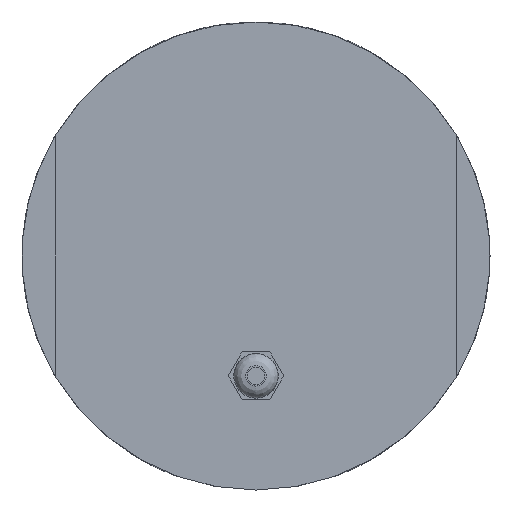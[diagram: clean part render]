
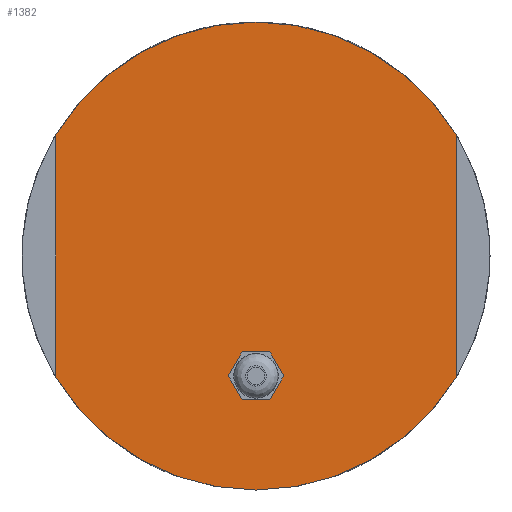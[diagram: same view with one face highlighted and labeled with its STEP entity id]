
A CAD part, left-side view. The second image highlights one B-rep face of the part: STEP entity #1382.
In plain terms, the highlighted planar face has unit normal (-1, 0, 0).
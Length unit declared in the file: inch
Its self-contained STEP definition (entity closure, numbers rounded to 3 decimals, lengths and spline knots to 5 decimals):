
#51=FACE_BOUND('',#265,.T.);
#101=PLANE('',#1530);
#177=FACE_OUTER_BOUND('',#264,.T.);
#264=EDGE_LOOP('',(#1239,#1240,#1241,#1242,#1243));
#265=EDGE_LOOP('',(#1244,#1245));
#376=LINE('',#2503,#496);
#382=LINE('',#2518,#502);
#496=VECTOR('',#1890,0.3937);
#502=VECTOR('',#1906,0.3937);
#521=CIRCLE('',#1438,0.19685);
#522=CIRCLE('',#1439,0.19685);
#558=CIRCLE('',#1515,2.69);
#560=CIRCLE('',#1517,2.69);
#562=CIRCLE('',#1519,2.69);
#604=VERTEX_POINT('',#2076);
#605=VERTEX_POINT('',#2077);
#680=VERTEX_POINT('',#2481);
#681=VERTEX_POINT('',#2483);
#684=VERTEX_POINT('',#2489);
#685=VERTEX_POINT('',#2491);
#688=VERTEX_POINT('',#2497);
#751=EDGE_CURVE('',#604,#605,#521,.T.);
#752=EDGE_CURVE('',#605,#604,#522,.T.);
#865=EDGE_CURVE('',#681,#680,#558,.T.);
#869=EDGE_CURVE('',#685,#684,#560,.T.);
#873=EDGE_CURVE('',#680,#688,#562,.T.);
#875=EDGE_CURVE('',#684,#681,#376,.T.);
#882=EDGE_CURVE('',#688,#685,#382,.T.);
#1239=ORIENTED_EDGE('',*,*,#875,.T.);
#1240=ORIENTED_EDGE('',*,*,#865,.T.);
#1241=ORIENTED_EDGE('',*,*,#873,.T.);
#1242=ORIENTED_EDGE('',*,*,#882,.T.);
#1243=ORIENTED_EDGE('',*,*,#869,.T.);
#1244=ORIENTED_EDGE('',*,*,#751,.T.);
#1245=ORIENTED_EDGE('',*,*,#752,.T.);
#1382=ADVANCED_FACE('',(#177,#51),#101,.F.);
#1438=AXIS2_PLACEMENT_3D('',#2078,#1656,#1657);
#1439=AXIS2_PLACEMENT_3D('',#2079,#1658,#1659);
#1515=AXIS2_PLACEMENT_3D('',#2484,#1871,#1872);
#1517=AXIS2_PLACEMENT_3D('',#2492,#1877,#1878);
#1519=AXIS2_PLACEMENT_3D('',#2499,#1883,#1884);
#1530=AXIS2_PLACEMENT_3D('',#2530,#1917,#1918);
#1656=DIRECTION('center_axis',(1.,0.,0.));
#1657=DIRECTION('ref_axis',(0.,-1.,0.));
#1658=DIRECTION('center_axis',(1.,0.,0.));
#1659=DIRECTION('ref_axis',(0.,-1.,0.));
#1871=DIRECTION('center_axis',(-1.,0.,0.));
#1872=DIRECTION('ref_axis',(0.,0.,-1.));
#1877=DIRECTION('center_axis',(-1.,0.,0.));
#1878=DIRECTION('ref_axis',(0.,0.,-1.));
#1883=DIRECTION('center_axis',(-1.,0.,0.));
#1884=DIRECTION('ref_axis',(0.,0.,-1.));
#1890=DIRECTION('',(0.,0.,1.));
#1906=DIRECTION('',(0.,0.,-1.));
#1917=DIRECTION('center_axis',(1.,0.,0.));
#1918=DIRECTION('ref_axis',(0.,0.,-1.));
#2076=CARTESIAN_POINT('',(-8.05,-0.19685,-1.37795));
#2077=CARTESIAN_POINT('',(-8.05,0.19685,-1.37795));
#2078=CARTESIAN_POINT('Origin',(-8.05,0.,-1.37795));
#2079=CARTESIAN_POINT('Origin',(-8.05,0.,-1.37795));
#2481=CARTESIAN_POINT('',(-8.05,0.,2.69));
#2483=CARTESIAN_POINT('',(-8.05,-2.3,1.39503));
#2484=CARTESIAN_POINT('Origin',(-8.05,0.,0.));
#2489=CARTESIAN_POINT('',(-8.05,-2.3,-1.39503));
#2491=CARTESIAN_POINT('',(-8.05,2.3,-1.39503));
#2492=CARTESIAN_POINT('Origin',(-8.05,0.,0.));
#2497=CARTESIAN_POINT('',(-8.05,2.3,1.39503));
#2499=CARTESIAN_POINT('Origin',(-8.05,0.,0.));
#2503=CARTESIAN_POINT('',(-8.05,-2.3,0.));
#2518=CARTESIAN_POINT('',(-8.05,2.3,0.));
#2530=CARTESIAN_POINT('Origin',(-8.05,0.,0.));
